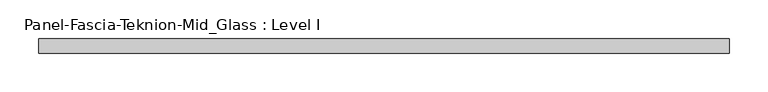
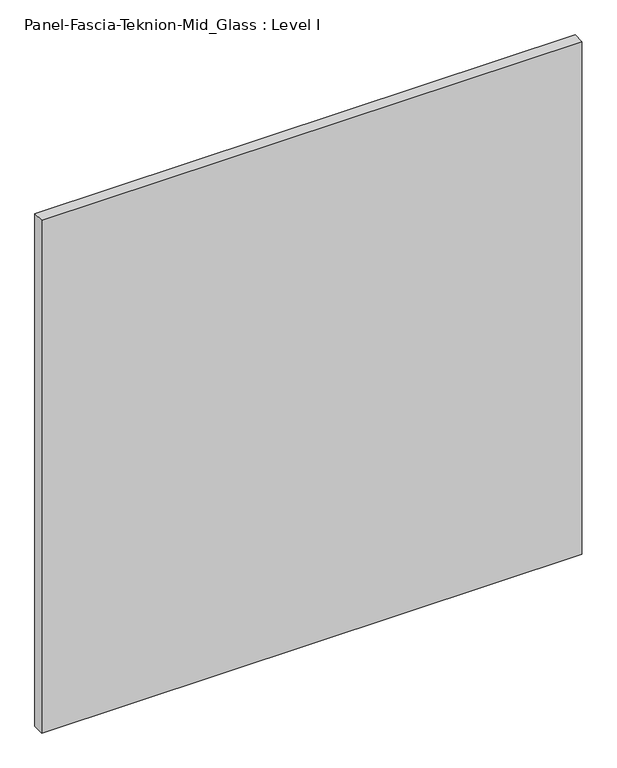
"""IFC4 building model written with IfcOpenShell, lengths in millimetres: proxy geometry, Panel-Fascia-Teknion-Mid_Glass : Level I."""

from ifc_helpers import new_model, si_unit, frame, origin, place, context, project, spatial, polyline, outline, extrude, source, transform, mapped, element, save


def panel_fascia_teknion_mid_glass_level_i_aef44225(model_context):
    return source(origin(), model_context, "Body", "SweptSolid", [
        extrude(outline(polyline([(447.6253906, 9.525), (447.6253906, -9.525), (-447.6253906, -9.525), (-447.6253906, 9.525), (447.6253906, 9.525)])), frame((0.0, 0.0, 3.175), z_axis=(0.0, 0.0, 1.0), x_axis=(1.0, 0.0, 0.0)), (0.0, 0.0, 1.0), 898.525),
    ])


if __name__ == "__main__":
    model = new_model("IFC4")
    model_context = context("Model", 3, world=origin())
    ifc_project = project(units=[si_unit("LENGTHUNIT", "METRE", prefix="MILLI")], contexts=[model_context])
    site = spatial("IfcSite", under=ifc_project)
    building = spatial("IfcBuilding", under=site)
    placement = place(None, origin())
    panel_fascia_teknion_mid_glass_level_i_shape = panel_fascia_teknion_mid_glass_level_i_aef44225(model_context)
    element("IfcBuildingElementProxy", 1, Name="Panel-Fascia-Teknion-Mid_Glass : Level I", ObjectType="Panel-Fascia-Teknion-Mid_Glass : Level I", at=placement, inside=building, context=model_context, shape_type="MappedRepresentation", body=[
        mapped(panel_fascia_teknion_mid_glass_level_i_shape, transform((0.0, 0.0, 0.0), x_axis=(1.0, 0.0, 0.0), y_axis=(0.0, 1.0, 0.0), z_axis=(0.0, 0.0, 1.0))),
    ])
    save(model, "model.ifc")
